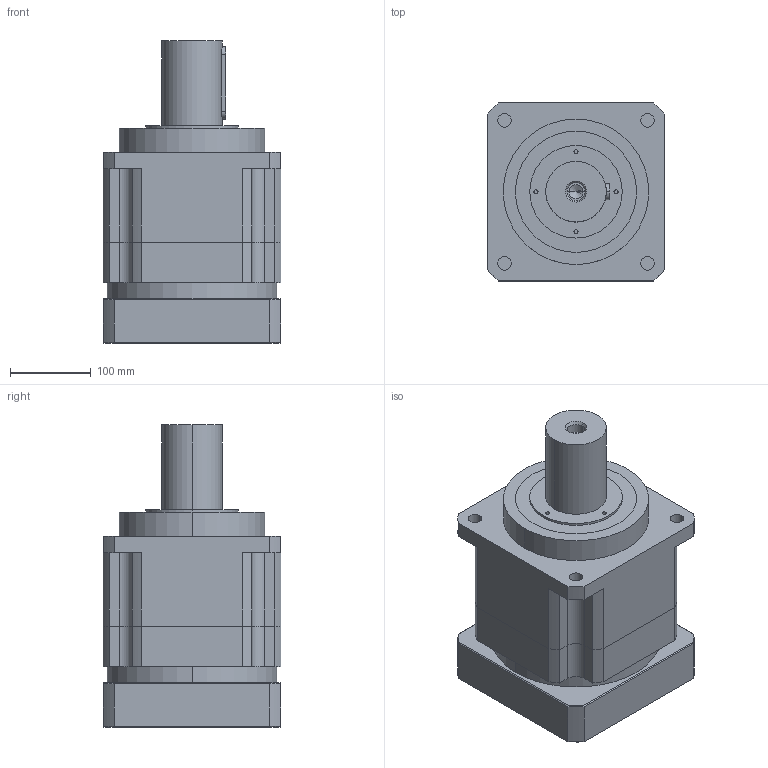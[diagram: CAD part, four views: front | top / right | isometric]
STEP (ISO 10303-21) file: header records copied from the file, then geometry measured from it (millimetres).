
FILE_DESCRIPTION (( 'STEP AP203' ), '1' );
FILE_NAME ('5A7XS.114220.062.STEP', '2022-02-18T08:28:50', ( '' ), ( '' ), 'SwSTEP 2.0', 'SolidWorks 2010', '' );
FILE_SCHEMA (( 'CONFIG_CONTROL_DESIGN' ));
Length unit declared in the file: millimetre
Products named in the file (6): 20-12-90?圓鍵; 內六角螺絲M14_M14x35; 5A7XS.114220.062; PUL220-BP(模型)_單段; 2341F89522_成品; PUL220-B(模型)_Default
Assembly tree (5 placements, depth 2):
  5A7XS.114220.062
    20-12-90?圓鍵
    2341F89522_成品
    PUL220-BP(模型)_單段
    PUL220-B(模型)_Default
    內六角螺絲M14_M14x35
Bounding box: 220 x 220 x 374 mm (x, y, z)
Volume: 10837923.1 mm3; surface area: 668207 mm2
Topology: 5 solids, 5 shells, 494 faces, 1179 edges, 737 vertices
Faces by surface type: cylinder 229, plane 203, cone 60, torus 2
Entity records: 15153 total; most frequent: CARTESIAN_POINT 2807, DIRECTION 2608, ORIENTED_EDGE 2282, EDGE_CURVE 1141, AXIS2_PLACEMENT_3D 991, VERTEX_POINT 737, VECTOR 626, LINE 626
